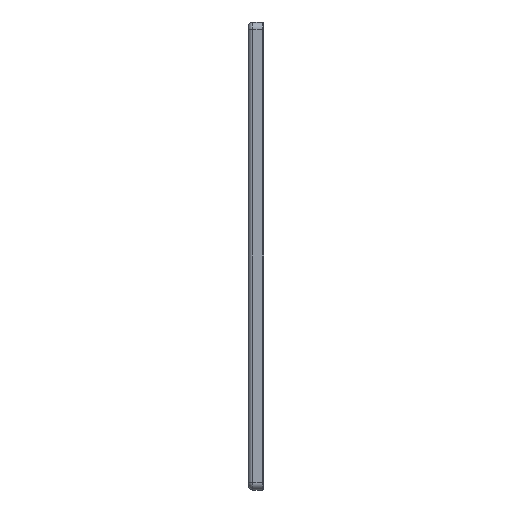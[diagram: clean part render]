
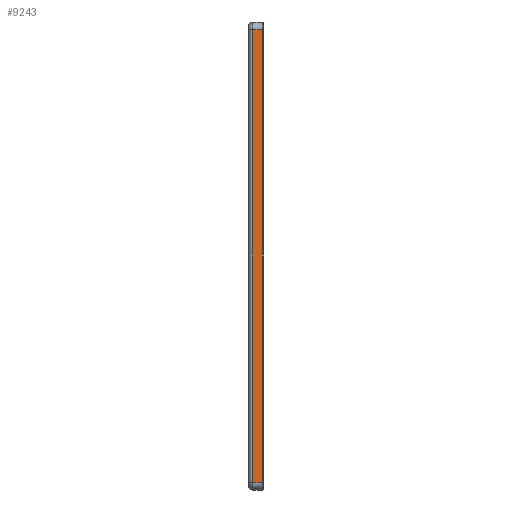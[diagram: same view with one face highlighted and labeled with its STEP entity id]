
A CAD part, left-side view. The second image highlights one B-rep face of the part: STEP entity #9243.
In plain terms, the highlighted planar face has unit normal (-1, 0, 0).
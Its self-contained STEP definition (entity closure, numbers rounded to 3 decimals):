
#453 = CARTESIAN_POINT ( 'NONE',  ( -300., 1., 145. ) ) ;
#456 = CARTESIAN_POINT ( 'NONE',  ( -300., 7., 145. ) ) ;
#464 = CARTESIAN_POINT ( 'NONE',  ( -300., 7., -145. ) ) ;
#467 = CARTESIAN_POINT ( 'NONE',  ( -300., 1., -145. ) ) ;
#2776 = AXIS2_PLACEMENT_3D ( 'NONE', #5326, #5330, #5331 ) ;
#4777 = FACE_OUTER_BOUND ( 'NONE', #6413, .T. ) ;
#4815 = LINE ( 'NONE', #5385, #4818 ) ;
#4818 = VECTOR ( 'NONE', #5366, 1000. ) ;
#4849 = LINE ( 'NONE', #5469, #4851 ) ;
#4851 = VECTOR ( 'NONE', #5476, 1000. ) ;
#4859 = LINE ( 'NONE', #5496, #4865 ) ;
#4865 = VECTOR ( 'NONE', #5507, 1000. ) ;
#4866 = LINE ( 'NONE', #5500, #4867 ) ;
#4867 = VECTOR ( 'NONE', #5513, 1000. ) ;
#5326 = CARTESIAN_POINT ( 'NONE',  ( -300., 10., 150. ) ) ;
#5327 = PLANE ( 'NONE',  #2776 ) ;
#5330 = DIRECTION ( 'NONE',  ( 1., 0., 0. ) ) ;
#5331 = DIRECTION ( 'NONE',  ( 0., 0., -1. ) ) ;
#5366 = DIRECTION ( 'NONE',  ( 0., 0., -1. ) ) ;
#5385 = CARTESIAN_POINT ( 'NONE',  ( -300., 7., 150. ) ) ;
#5469 = CARTESIAN_POINT ( 'NONE',  ( -300., 10., 145. ) ) ;
#5476 = DIRECTION ( 'NONE',  ( 0., 1., 0. ) ) ;
#5496 = CARTESIAN_POINT ( 'NONE',  ( -300., 1., 150. ) ) ;
#5500 = CARTESIAN_POINT ( 'NONE',  ( -300., 10., -145. ) ) ;
#5507 = DIRECTION ( 'NONE',  ( 0., 0., 1. ) ) ;
#5513 = DIRECTION ( 'NONE',  ( 0., -1., 0. ) ) ;
#6413 = EDGE_LOOP ( 'NONE', ( #7033, #7035, #7087, #7036 ) ) ;
#7033 = ORIENTED_EDGE ( 'NONE', *, *, #9581, .T. ) ;
#7035 = ORIENTED_EDGE ( 'NONE', *, *, #9578, .T. ) ;
#7036 = ORIENTED_EDGE ( 'NONE', *, *, #9537, .T. ) ;
#7087 = ORIENTED_EDGE ( 'NONE', *, *, #9567, .T. ) ;
#9243 = ADVANCED_FACE ( 'NONE', ( #4777 ), #5327, .F. ) ;
#9537 = EDGE_CURVE ( 'NONE', #10226, #10234, #4815, .T. ) ;
#9567 = EDGE_CURVE ( 'NONE', #10223, #10226, #4849, .T. ) ;
#9578 = EDGE_CURVE ( 'NONE', #10237, #10223, #4859, .T. ) ;
#9581 = EDGE_CURVE ( 'NONE', #10234, #10237, #4866, .T. ) ;
#10223 = VERTEX_POINT ( 'NONE', #453 ) ;
#10226 = VERTEX_POINT ( 'NONE', #456 ) ;
#10234 = VERTEX_POINT ( 'NONE', #464 ) ;
#10237 = VERTEX_POINT ( 'NONE', #467 ) ;
